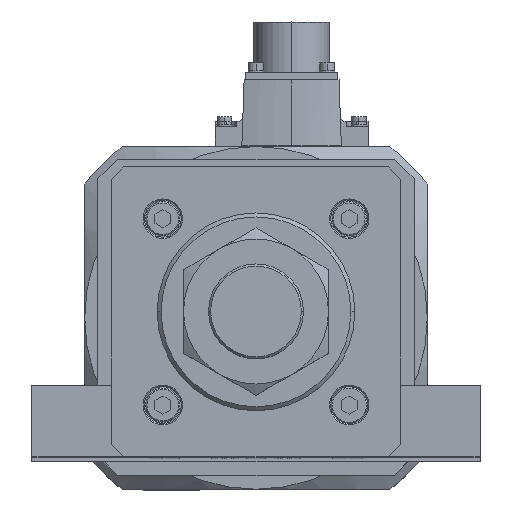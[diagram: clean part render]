
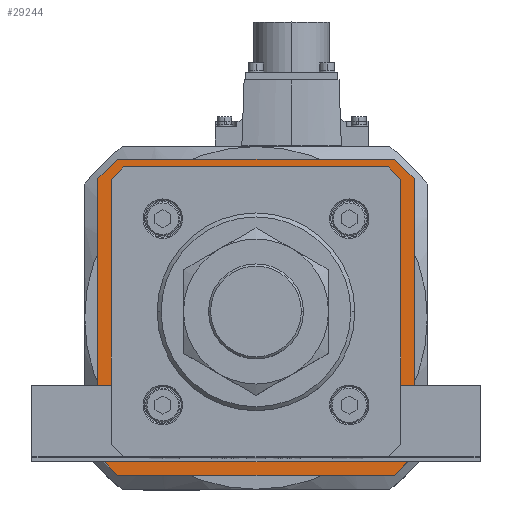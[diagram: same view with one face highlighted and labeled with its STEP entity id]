
A CAD part, top view. The second image highlights one B-rep face of the part: STEP entity #29244.
In plain terms, the highlighted planar face has unit normal (0, 0, 1).
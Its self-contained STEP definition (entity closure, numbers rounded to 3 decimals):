
#546 = PLANE ( 'NONE',  #14262 ) ;
#937 = EDGE_CURVE ( 'NONE', #12340, #37403, #37498, .T. ) ;
#1056 = CARTESIAN_POINT ( 'NONE',  ( -52.5, 60., -119. ) ) ;
#1292 = FACE_OUTER_BOUND ( 'NONE', #34448, .T. ) ;
#1415 = ORIENTED_EDGE ( 'NONE', *, *, #13285, .F. ) ;
#1674 = LINE ( 'NONE', #16962, #25394 ) ;
#1693 = LINE ( 'NONE', #4174, #16731 ) ;
#1702 = LINE ( 'NONE', #4425, #2609 ) ;
#2609 = VECTOR ( 'NONE', #30523, 1000. ) ;
#3229 = VERTEX_POINT ( 'NONE', #24130 ) ;
#3420 = VERTEX_POINT ( 'NONE', #21715 ) ;
#3449 = DIRECTION ( 'NONE',  ( 0.707, -0.707, 0. ) ) ;
#3506 = VECTOR ( 'NONE', #17352, 1000. ) ;
#3961 = DIRECTION ( 'NONE',  ( 0., 0., 1. ) ) ;
#3963 = DIRECTION ( 'NONE',  ( 0.707, 0.707, 0. ) ) ;
#4079 = DIRECTION ( 'NONE',  ( 0., -1., 0. ) ) ;
#4174 = CARTESIAN_POINT ( 'NONE',  ( -53.5, 49.8, -119. ) ) ;
#4425 = CARTESIAN_POINT ( 'NONE',  ( -60., 52.5, -119. ) ) ;
#4597 = VERTEX_POINT ( 'NONE', #25562 ) ;
#4771 = CARTESIAN_POINT ( 'NONE',  ( 60., 52.5, -119. ) ) ;
#4815 = LINE ( 'NONE', #9021, #33954 ) ;
#4824 = EDGE_CURVE ( 'NONE', #37403, #10679, #1674, .T. ) ;
#5061 = EDGE_CURVE ( 'NONE', #29659, #16783, #19930, .T. ) ;
#5116 = ORIENTED_EDGE ( 'NONE', *, *, #5061, .F. ) ;
#5240 = VERTEX_POINT ( 'NONE', #13606 ) ;
#5416 = CARTESIAN_POINT ( 'NONE',  ( 60., -52.5, -119. ) ) ;
#5666 = EDGE_CURVE ( 'NONE', #10645, #29659, #4815, .T. ) ;
#5701 = VECTOR ( 'NONE', #31175, 1000. ) ;
#7138 = DIRECTION ( 'NONE',  ( 0., 1., 0. ) ) ;
#7269 = LINE ( 'NONE', #26796, #12759 ) ;
#7281 = VERTEX_POINT ( 'NONE', #7817 ) ;
#7745 = DIRECTION ( 'NONE',  ( 0., -1., 0. ) ) ;
#7795 = CARTESIAN_POINT ( 'NONE',  ( -52.5, -60., -119. ) ) ;
#7817 = CARTESIAN_POINT ( 'NONE',  ( -49.593, 53.5, -119. ) ) ;
#7945 = EDGE_CURVE ( 'NONE', #28186, #3229, #13870, .T. ) ;
#8460 = CARTESIAN_POINT ( 'NONE',  ( -49.8, -53.5, -119. ) ) ;
#8843 = VECTOR ( 'NONE', #11015, 1000. ) ;
#9021 = CARTESIAN_POINT ( 'NONE',  ( 60., -52.5, -119. ) ) ;
#9561 = CARTESIAN_POINT ( 'NONE',  ( 52.5, -60., -119. ) ) ;
#9690 = LINE ( 'NONE', #4771, #9730 ) ;
#9730 = VECTOR ( 'NONE', #7745, 1000. ) ;
#10645 = VERTEX_POINT ( 'NONE', #5416 ) ;
#10679 = VERTEX_POINT ( 'NONE', #35086 ) ;
#10802 = EDGE_CURVE ( 'NONE', #3229, #12340, #7269, .T. ) ;
#10854 = LINE ( 'NONE', #14173, #3506 ) ;
#11015 = DIRECTION ( 'NONE',  ( -1., 0., 0. ) ) ;
#11711 = DIRECTION ( 'NONE',  ( -0.707, -0.707, 0. ) ) ;
#11723 = LINE ( 'NONE', #13069, #28522 ) ;
#12340 = VERTEX_POINT ( 'NONE', #26035 ) ;
#12509 = CARTESIAN_POINT ( 'NONE',  ( -52.5, -60., -119. ) ) ;
#12759 = VECTOR ( 'NONE', #35193, 1000. ) ;
#12911 = ORIENTED_EDGE ( 'NONE', *, *, #7945, .T. ) ;
#13009 = CARTESIAN_POINT ( 'NONE',  ( 53.5, -49.8, -119. ) ) ;
#13069 = CARTESIAN_POINT ( 'NONE',  ( 60., 52.5, -119. ) ) ;
#13142 = ORIENTED_EDGE ( 'NONE', *, *, #5666, .F. ) ;
#13285 = EDGE_CURVE ( 'NONE', #16783, #31937, #21319, .T. ) ;
#13585 = VERTEX_POINT ( 'NONE', #23171 ) ;
#13606 = CARTESIAN_POINT ( 'NONE',  ( -52.5, 60., -119. ) ) ;
#13657 = ORIENTED_EDGE ( 'NONE', *, *, #20010, .F. ) ;
#13870 = LINE ( 'NONE', #13009, #26603 ) ;
#14173 = CARTESIAN_POINT ( 'NONE',  ( 52.5, 60., -119. ) ) ;
#14262 = AXIS2_PLACEMENT_3D ( 'NONE', #15685, #3961, #36077 ) ;
#15093 = ORIENTED_EDGE ( 'NONE', *, *, #32698, .F. ) ;
#15685 = CARTESIAN_POINT ( 'NONE',  ( 0., 0., -119. ) ) ;
#15757 = DIRECTION ( 'NONE',  ( -1., 0., 0. ) ) ;
#16165 = CARTESIAN_POINT ( 'NONE',  ( 49.593, 53.5, -119. ) ) ;
#16452 = CARTESIAN_POINT ( 'NONE',  ( -49.446, 53.646, -119. ) ) ;
#16731 = VECTOR ( 'NONE', #7138, 1000. ) ;
#16783 = VERTEX_POINT ( 'NONE', #12509 ) ;
#16798 = FACE_BOUND ( 'NONE', #35471, .T. ) ;
#16962 = CARTESIAN_POINT ( 'NONE',  ( -53.646, -49.446, -119. ) ) ;
#17139 = CARTESIAN_POINT ( 'NONE',  ( -60., -52.5, -119. ) ) ;
#17352 = DIRECTION ( 'NONE',  ( 1., 0., 0. ) ) ;
#17441 = ORIENTED_EDGE ( 'NONE', *, *, #29179, .T. ) ;
#17477 = ORIENTED_EDGE ( 'NONE', *, *, #33430, .T. ) ;
#17564 = VERTEX_POINT ( 'NONE', #16165 ) ;
#19059 = VECTOR ( 'NONE', #28133, 1000. ) ;
#19930 = LINE ( 'NONE', #9561, #33996 ) ;
#20010 = EDGE_CURVE ( 'NONE', #3420, #10645, #9690, .T. ) ;
#21319 = LINE ( 'NONE', #7795, #19059 ) ;
#21715 = CARTESIAN_POINT ( 'NONE',  ( 60., 52.5, -119. ) ) ;
#22104 = LINE ( 'NONE', #16452, #5701 ) ;
#22676 = ORIENTED_EDGE ( 'NONE', *, *, #937, .T. ) ;
#22724 = ORIENTED_EDGE ( 'NONE', *, *, #10802, .T. ) ;
#22735 = ORIENTED_EDGE ( 'NONE', *, *, #28864, .T. ) ;
#23171 = CARTESIAN_POINT ( 'NONE',  ( -53.5, 49.593, -119. ) ) ;
#23658 = LINE ( 'NONE', #36873, #30890 ) ;
#24130 = CARTESIAN_POINT ( 'NONE',  ( 53.5, -49.593, -119. ) ) ;
#24356 = CARTESIAN_POINT ( 'NONE',  ( 52.5, -60., -119. ) ) ;
#24516 = LINE ( 'NONE', #27044, #33169 ) ;
#24520 = EDGE_CURVE ( 'NONE', #5240, #4597, #10854, .T. ) ;
#24759 = DIRECTION ( 'NONE',  ( 1., 0., 0. ) ) ;
#24851 = EDGE_CURVE ( 'NONE', #10679, #13585, #1693, .T. ) ;
#24864 = CARTESIAN_POINT ( 'NONE',  ( -60., 52.5, -119. ) ) ;
#25394 = VECTOR ( 'NONE', #28544, 1000. ) ;
#25562 = CARTESIAN_POINT ( 'NONE',  ( 52.5, 60., -119. ) ) ;
#26035 = CARTESIAN_POINT ( 'NONE',  ( 49.593, -53.5, -119. ) ) ;
#26603 = VECTOR ( 'NONE', #4079, 1000. ) ;
#26796 = CARTESIAN_POINT ( 'NONE',  ( 49.446, -53.646, -119. ) ) ;
#27044 = CARTESIAN_POINT ( 'NONE',  ( 53.646, 49.446, -119. ) ) ;
#27097 = VERTEX_POINT ( 'NONE', #24864 ) ;
#28098 = ORIENTED_EDGE ( 'NONE', *, *, #24520, .F. ) ;
#28133 = DIRECTION ( 'NONE',  ( -0.707, 0.707, 0. ) ) ;
#28186 = VERTEX_POINT ( 'NONE', #29280 ) ;
#28522 = VECTOR ( 'NONE', #36112, 1000. ) ;
#28544 = DIRECTION ( 'NONE',  ( -0.707, 0.707, 0. ) ) ;
#28864 = EDGE_CURVE ( 'NONE', #7281, #17564, #23658, .T. ) ;
#29179 = EDGE_CURVE ( 'NONE', #17564, #28186, #24516, .T. ) ;
#29197 = VECTOR ( 'NONE', #3963, 1000. ) ;
#29244 = ADVANCED_FACE ( 'NONE', ( #16798, #1292 ), #546, .T. ) ;
#29280 = CARTESIAN_POINT ( 'NONE',  ( 53.5, 49.593, -119. ) ) ;
#29659 = VERTEX_POINT ( 'NONE', #24356 ) ;
#30071 = ORIENTED_EDGE ( 'NONE', *, *, #35865, .F. ) ;
#30411 = ORIENTED_EDGE ( 'NONE', *, *, #24851, .T. ) ;
#30523 = DIRECTION ( 'NONE',  ( 0., 1., 0. ) ) ;
#30890 = VECTOR ( 'NONE', #24759, 1000. ) ;
#31175 = DIRECTION ( 'NONE',  ( 0.707, 0.707, 0. ) ) ;
#31937 = VERTEX_POINT ( 'NONE', #17139 ) ;
#32145 = EDGE_CURVE ( 'NONE', #31937, #27097, #1702, .T. ) ;
#32365 = CARTESIAN_POINT ( 'NONE',  ( -49.593, -53.5, -119. ) ) ;
#32651 = ORIENTED_EDGE ( 'NONE', *, *, #4824, .T. ) ;
#32698 = EDGE_CURVE ( 'NONE', #4597, #3420, #11723, .T. ) ;
#33169 = VECTOR ( 'NONE', #3449, 1000. ) ;
#33430 = EDGE_CURVE ( 'NONE', #13585, #7281, #22104, .T. ) ;
#33954 = VECTOR ( 'NONE', #11711, 1000. ) ;
#33996 = VECTOR ( 'NONE', #15757, 1000. ) ;
#34448 = EDGE_LOOP ( 'NONE', ( #28098, #30071, #36243, #1415, #5116, #13142, #13657, #15093 ) ) ;
#34665 = LINE ( 'NONE', #1056, #29197 ) ;
#35086 = CARTESIAN_POINT ( 'NONE',  ( -53.5, -49.593, -119. ) ) ;
#35193 = DIRECTION ( 'NONE',  ( -0.707, -0.707, 0. ) ) ;
#35471 = EDGE_LOOP ( 'NONE', ( #22735, #17441, #12911, #22724, #22676, #32651, #30411, #17477 ) ) ;
#35865 = EDGE_CURVE ( 'NONE', #27097, #5240, #34665, .T. ) ;
#36077 = DIRECTION ( 'NONE',  ( 1., 0., 0. ) ) ;
#36112 = DIRECTION ( 'NONE',  ( 0.707, -0.707, 0. ) ) ;
#36243 = ORIENTED_EDGE ( 'NONE', *, *, #32145, .F. ) ;
#36873 = CARTESIAN_POINT ( 'NONE',  ( 49.8, 53.5, -119. ) ) ;
#37403 = VERTEX_POINT ( 'NONE', #32365 ) ;
#37498 = LINE ( 'NONE', #8460, #8843 ) ;
